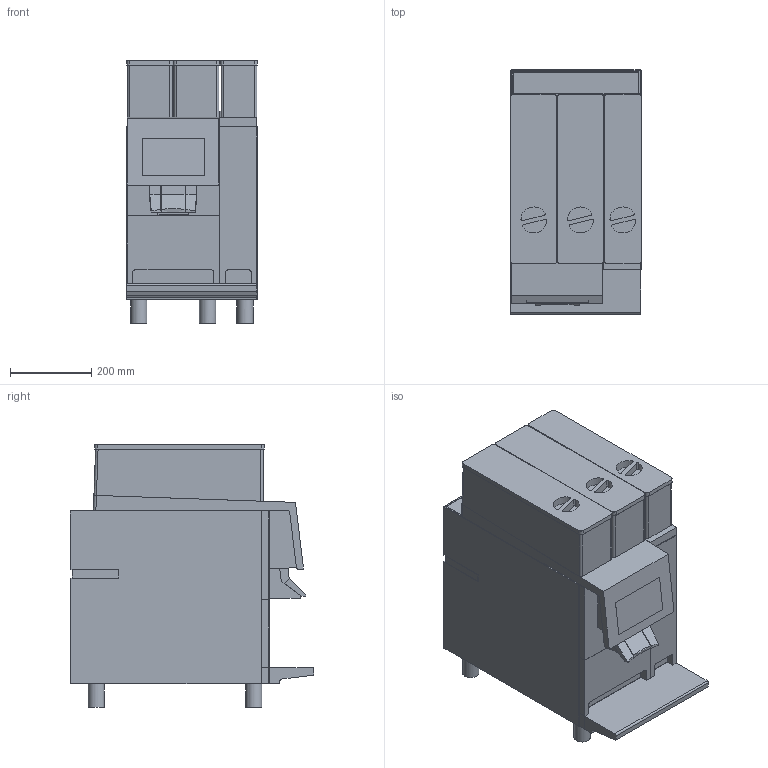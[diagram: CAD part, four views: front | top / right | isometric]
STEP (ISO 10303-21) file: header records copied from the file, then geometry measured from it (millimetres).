
FILE_DESCRIPTION(/* description */ ('Unknown'),/* implementation_level */ '2;1');
FILE_NAME(/* name */ 'HM_BW4c-CTM-P',/* time_stamp */ '2026-08-14T14:28:38+02:00',/* author */ ('Unknown'),/* organization */ ('Unknown'),/* preprocessor_version */ 'ST-DEVELOPER v20',/* originating_system */ 'Solid Edge',/* authorisation */ 'Unknown');
FILE_SCHEMA (('AUTOMOTIVE_DESIGN {1 0 10303 214 3 1 1}'));
Length unit declared in the file: millimetre
Products named in the file (1): HM_BW4c-CTM-P
Bounding box: 321.85 x 599.39 x 645.98 mm (x, y, z)
Volume: 91188303.8 mm3; surface area: 1801838.2 mm2
Topology: 1 solids, 1 shells, 307 faces, 843 edges, 542 vertices
Faces by surface type: plane 215, cylinder 88, sphere 4
Full cylindrical faces by diameter (mm): 40 x6
Entity records: 11820 total; most frequent: CARTESIAN_POINT 1677, ORIENTED_EDGE 1660, DIRECTION 1640, EDGE_CURVE 830, LINE 636, VECTOR 636, VERTEX_POINT 539, AXIS2_PLACEMENT_3D 502
